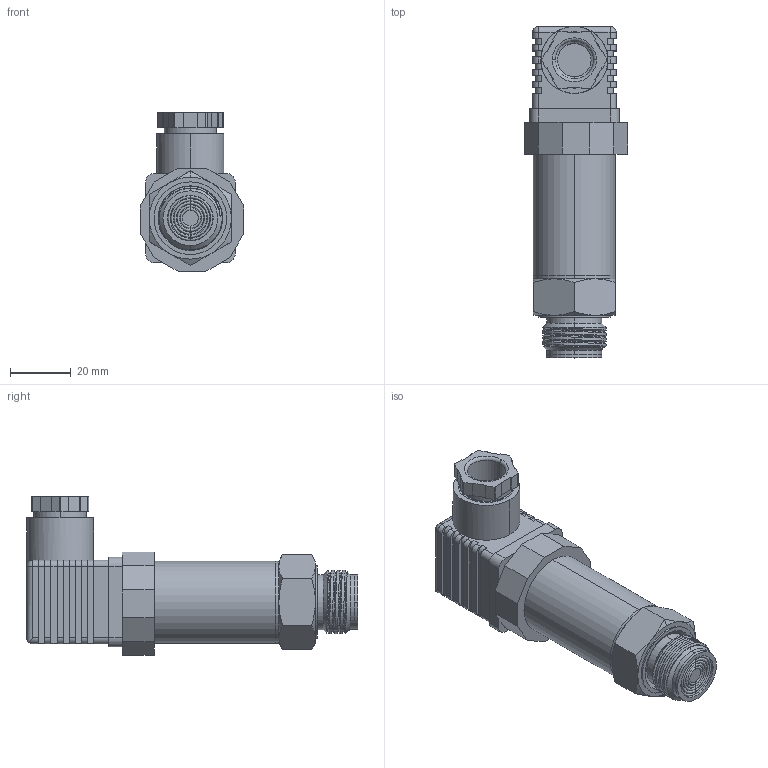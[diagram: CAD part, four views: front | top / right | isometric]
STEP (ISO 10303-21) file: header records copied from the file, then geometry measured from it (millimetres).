
FILE_DESCRIPTION (( 'STEP AP214' ), '1' );
FILE_NAME ('狦100-邯-121 1.STEP', '2026-01-07T09:49:07', ( '' ), ( '' ), 'SwSTEP 2.0', 'SolidWorks 2019', '' );
FILE_SCHEMA (( 'AUTOMOTIVE_DESIGN' ));
Length unit declared in the file: millimetre
Products named in the file (8): ____^狦100-邯-121  1(2)_狦100-邯-121  1; 狦100-邯-121  1; 280__________^狦100-邯-121  1(2)_狦100-邯-121  1; ____-0^狦100-邯-121  1(2)_狦100-邯-121  1; HTP^ﾏﾄ100-ﾍﾕ-121  1(2)_ﾏﾄ100-ﾍﾕ-121  1; ____-1^狦100-邯-121  1(2)_狦100-邯-121  1; ______G1-2^狦100-邯-121  1(2)_狦100-邯-121  1; 狦100-邯-121  1(2)^狦100-邯-121  1
Assembly tree (7 placements, depth 3):
  狦100-邯-121  1
    狦100-邯-121  1(2)^狦100-邯-121  1
      280__________^狦100-邯-121  1(2)_狦100-邯-121  1
      ____^狦100-邯-121  1(2)_狦100-邯-121  1
      ______G1-2^狦100-邯-121  1(2)_狦100-邯-121  1
      ____-0^狦100-邯-121  1(2)_狦100-邯-121  1
      HTP^ﾏﾄ100-ﾍﾕ-121  1(2)_ﾏﾄ100-ﾍﾕ-121  1
      ____-1^狦100-邯-121  1(2)_狦100-邯-121  1
Bounding box: 34 x 109.22 x 52.29 mm (x, y, z)
Volume: 41821.4 mm3; surface area: 29994.9 mm2
Topology: 9 solids, 9 shells, 401 faces, 1034 edges, 674 vertices
Faces by surface type: plane 181, cylinder 163, cone 31, torus 16, bspline 8, sphere 2
Entity records: 17997 total; most frequent: CARTESIAN_POINT 8043, ORIENTED_EDGE 2068, DIRECTION 1981, EDGE_CURVE 1034, AXIS2_PLACEMENT_3D 715, VERTEX_POINT 674, LINE 551, VECTOR 551
